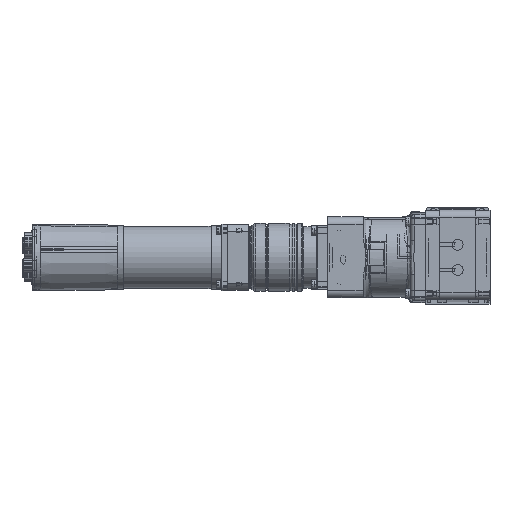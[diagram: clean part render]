
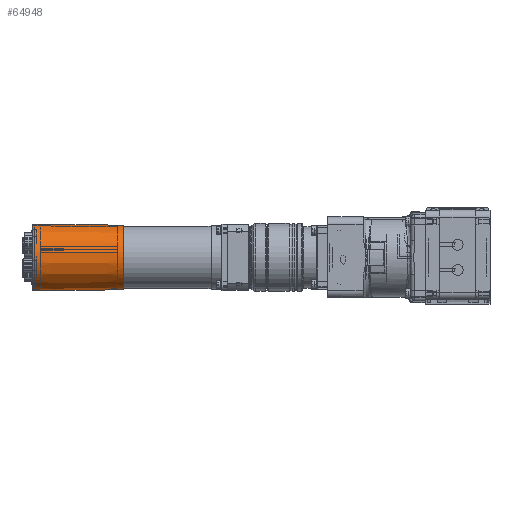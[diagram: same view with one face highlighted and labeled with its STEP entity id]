
A CAD part, top view. The second image highlights one B-rep face of the part: STEP entity #64948.
In plain terms, the highlighted conical face has half-angle 0.716 degrees and reference radius 28.5 mm.
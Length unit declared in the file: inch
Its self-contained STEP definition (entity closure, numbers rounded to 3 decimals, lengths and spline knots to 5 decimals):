
#294 = EDGE_LOOP ( 'NONE', ( #16900 ) ) ;
#1108 = DIRECTION ( 'NONE',  ( 0., 1., 0. ) ) ;
#8622 = VERTEX_POINT ( 'NONE', #34479 ) ;
#9211 = EDGE_CURVE ( 'NONE', #11411, #11411, #60838, .T. ) ;
#11411 = VERTEX_POINT ( 'NONE', #32227 ) ;
#15264 = CIRCLE ( 'NONE', #33539, 1.12205 ) ;
#16900 = ORIENTED_EDGE ( 'NONE', *, *, #53152, .T. ) ;
#21458 = FACE_OUTER_BOUND ( 'NONE', #51595, .T. ) ;
#27289 = CARTESIAN_POINT ( 'NONE',  ( 0., 0., -10.25197 ) ) ;
#29209 = DIRECTION ( 'NONE',  ( 0., 0., -1. ) ) ;
#29610 = AXIS2_PLACEMENT_3D ( 'NONE', #41950, #56455, #31215 ) ;
#31215 = DIRECTION ( 'NONE',  ( 0., 1., 0. ) ) ;
#32227 = CARTESIAN_POINT ( 'NONE',  ( 0., 1.16142, -10.25197 ) ) ;
#33539 = AXIS2_PLACEMENT_3D ( 'NONE', #60469, #29209, #64870 ) ;
#34479 = CARTESIAN_POINT ( 'NONE',  ( 0., 1.12205, -7.10236 ) ) ;
#34969 = CONICAL_SURFACE ( 'NONE', #29610, 1.12205, 0.012 ) ;
#41950 = CARTESIAN_POINT ( 'NONE',  ( 0., 0., -7.10236 ) ) ;
#42861 = ORIENTED_EDGE ( 'NONE', *, *, #9211, .F. ) ;
#45676 = FACE_BOUND ( 'NONE', #294, .T. ) ;
#49029 = AXIS2_PLACEMENT_3D ( 'NONE', #27289, #52187, #1108 ) ;
#51595 = EDGE_LOOP ( 'NONE', ( #42861 ) ) ;
#52187 = DIRECTION ( 'NONE',  ( 0., 0., -1. ) ) ;
#53152 = EDGE_CURVE ( 'NONE', #8622, #8622, #15264, .T. ) ;
#56455 = DIRECTION ( 'NONE',  ( 0., 0., -1. ) ) ;
#60469 = CARTESIAN_POINT ( 'NONE',  ( 0., 0., -7.10236 ) ) ;
#60838 = CIRCLE ( 'NONE', #49029, 1.16142 ) ;
#64870 = DIRECTION ( 'NONE',  ( 0., 1., 0. ) ) ;
#64948 = ADVANCED_FACE ( 'NONE', ( #45676, #21458 ), #34969, .T. ) ;
